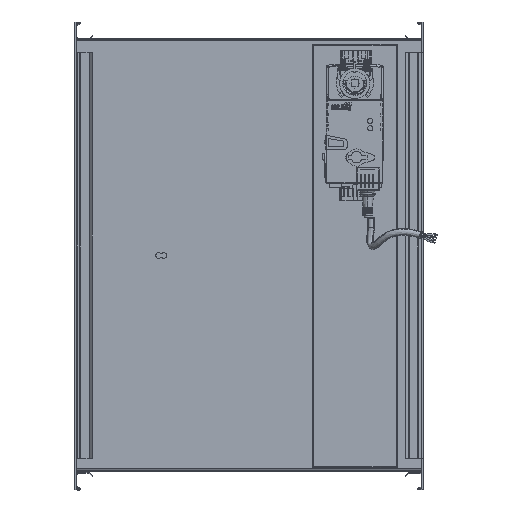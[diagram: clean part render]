
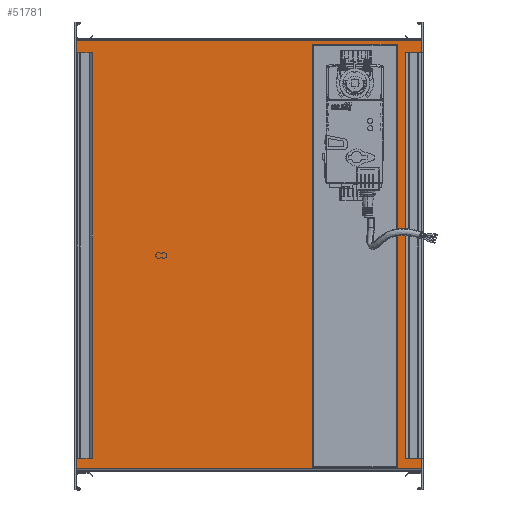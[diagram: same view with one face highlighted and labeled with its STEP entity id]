
A CAD part, top view. The second image highlights one B-rep face of the part: STEP entity #51781.
In plain terms, the highlighted planar face has unit normal (0, 0, 1).
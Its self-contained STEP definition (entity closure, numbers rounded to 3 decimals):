
#1327 = EDGE_LOOP ( 'NONE', ( #39608, #81176, #44581, #87302 ) ) ;
#1786 = CARTESIAN_POINT ( 'NONE',  ( 155.577, -233.848, 1400. ) ) ;
#5184 = CARTESIAN_POINT ( 'NONE',  ( -244.423, -233.848, 1400. ) ) ;
#5897 = DIRECTION ( 'NONE',  ( 1., 0., 0. ) ) ;
#10278 = CARTESIAN_POINT ( 'NONE',  ( 126.967, -232.458, 1400. ) ) ;
#11552 = VERTEX_POINT ( 'NONE', #45096 ) ;
#13223 = LINE ( 'NONE', #56913, #40929 ) ;
#16450 = DIRECTION ( 'NONE',  ( 0., 1., 0. ) ) ;
#17333 = VERTEX_POINT ( 'NONE', #91009 ) ;
#17826 = CARTESIAN_POINT ( 'NONE',  ( 126.967, -232.458, 1400. ) ) ;
#19795 = CARTESIAN_POINT ( 'NONE',  ( 28.967, -232.458, 1400. ) ) ;
#21294 = DIRECTION ( 'NONE',  ( 1., 0., 0. ) ) ;
#21697 = EDGE_CURVE ( 'NONE', #37705, #67279, #64075, .T. ) ;
#23557 = LINE ( 'NONE', #10278, #67907 ) ;
#23702 = LINE ( 'NONE', #83498, #85883 ) ;
#23844 = ORIENTED_EDGE ( 'NONE', *, *, #49753, .T. ) ;
#25721 = CARTESIAN_POINT ( 'NONE',  ( 155.577, -233.848, 1400. ) ) ;
#29131 = EDGE_CURVE ( 'NONE', #76819, #11552, #13223, .T. ) ;
#31050 = EDGE_CURVE ( 'NONE', #17333, #40638, #47229, .T. ) ;
#33155 = VERTEX_POINT ( 'NONE', #92536 ) ;
#33562 = DIRECTION ( 'NONE',  ( 0., 0., 1. ) ) ;
#37705 = VERTEX_POINT ( 'NONE', #5184 ) ;
#38107 = LINE ( 'NONE', #25721, #76603 ) ;
#39608 = ORIENTED_EDGE ( 'NONE', *, *, #29131, .F. ) ;
#39628 = VECTOR ( 'NONE', #5897, 1000. ) ;
#40638 = VERTEX_POINT ( 'NONE', #17826 ) ;
#40711 = LINE ( 'NONE', #19795, #40886 ) ;
#40886 = VECTOR ( 'NONE', #77261, 1000. ) ;
#40929 = VECTOR ( 'NONE', #56447, 1000. ) ;
#44581 = ORIENTED_EDGE ( 'NONE', *, *, #31050, .F. ) ;
#45096 = CARTESIAN_POINT ( 'NONE',  ( 28.967, 257.542, 1400. ) ) ;
#45240 = VECTOR ( 'NONE', #91310, 1000. ) ;
#46878 = AXIS2_PLACEMENT_3D ( 'NONE', #54474, #33562, #53571 ) ;
#47047 = EDGE_CURVE ( 'NONE', #33155, #74506, #23702, .T. ) ;
#47229 = LINE ( 'NONE', #69987, #39628 ) ;
#48809 = ORIENTED_EDGE ( 'NONE', *, *, #47047, .F. ) ;
#49753 = EDGE_CURVE ( 'NONE', #33155, #37705, #75695, .T. ) ;
#51057 = VECTOR ( 'NONE', #21294, 1000. ) ;
#51781 = ADVANCED_FACE ( 'NONE', ( #67782, #82973 ), #83874, .T. ) ;
#53007 = EDGE_CURVE ( 'NONE', #11552, #17333, #40711, .T. ) ;
#53571 = DIRECTION ( 'NONE',  ( 1., 0., 0. ) ) ;
#54474 = CARTESIAN_POINT ( 'NONE',  ( -244.423, -233.848, 1400. ) ) ;
#55632 = CARTESIAN_POINT ( 'NONE',  ( 155.577, 262.152, 1400. ) ) ;
#55742 = CARTESIAN_POINT ( 'NONE',  ( -244.423, -233.848, 1400. ) ) ;
#56447 = DIRECTION ( 'NONE',  ( -1., 0., 0. ) ) ;
#56913 = CARTESIAN_POINT ( 'NONE',  ( 28.967, 257.542, 1400. ) ) ;
#64075 = LINE ( 'NONE', #93001, #51057 ) ;
#64461 = ORIENTED_EDGE ( 'NONE', *, *, #21697, .T. ) ;
#67279 = VERTEX_POINT ( 'NONE', #1786 ) ;
#67782 = FACE_BOUND ( 'NONE', #1327, .T. ) ;
#67907 = VECTOR ( 'NONE', #16450, 1000. ) ;
#69987 = CARTESIAN_POINT ( 'NONE',  ( 28.967, -232.458, 1400. ) ) ;
#74060 = ORIENTED_EDGE ( 'NONE', *, *, #75403, .F. ) ;
#74506 = VERTEX_POINT ( 'NONE', #55632 ) ;
#75137 = DIRECTION ( 'NONE',  ( 0., -1., 0. ) ) ;
#75403 = EDGE_CURVE ( 'NONE', #74506, #67279, #38107, .T. ) ;
#75695 = LINE ( 'NONE', #55742, #45240 ) ;
#76603 = VECTOR ( 'NONE', #75137, 1000. ) ;
#76819 = VERTEX_POINT ( 'NONE', #92533 ) ;
#77261 = DIRECTION ( 'NONE',  ( 0., -1., 0. ) ) ;
#81176 = ORIENTED_EDGE ( 'NONE', *, *, #87023, .F. ) ;
#82973 = FACE_OUTER_BOUND ( 'NONE', #83131, .T. ) ;
#83131 = EDGE_LOOP ( 'NONE', ( #74060, #48809, #23844, #64461 ) ) ;
#83498 = CARTESIAN_POINT ( 'NONE',  ( -244.423, 262.152, 1400. ) ) ;
#83874 = PLANE ( 'NONE',  #46878 ) ;
#83945 = DIRECTION ( 'NONE',  ( 1., 0., 0. ) ) ;
#85883 = VECTOR ( 'NONE', #83945, 1000. ) ;
#87023 = EDGE_CURVE ( 'NONE', #40638, #76819, #23557, .T. ) ;
#87302 = ORIENTED_EDGE ( 'NONE', *, *, #53007, .F. ) ;
#91009 = CARTESIAN_POINT ( 'NONE',  ( 28.967, -232.458, 1400. ) ) ;
#91310 = DIRECTION ( 'NONE',  ( 0., -1., 0. ) ) ;
#92533 = CARTESIAN_POINT ( 'NONE',  ( 126.967, 257.542, 1400. ) ) ;
#92536 = CARTESIAN_POINT ( 'NONE',  ( -244.423, 262.152, 1400. ) ) ;
#93001 = CARTESIAN_POINT ( 'NONE',  ( -244.423, -233.848, 1400. ) ) ;
